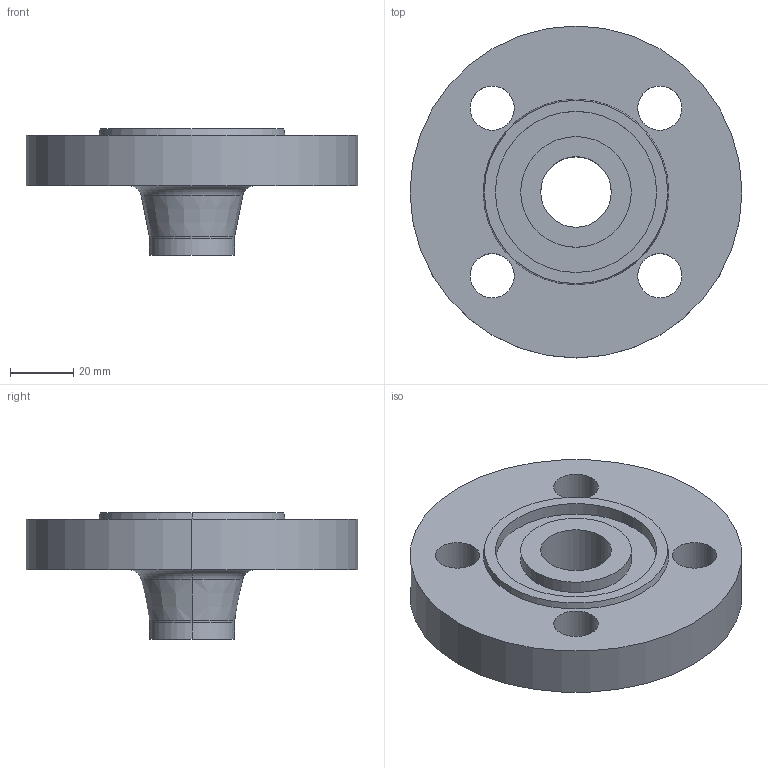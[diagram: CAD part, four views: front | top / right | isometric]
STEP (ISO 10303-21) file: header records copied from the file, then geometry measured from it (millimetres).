
FILE_DESCRIPTION (( 'STEP AP214' ), '1' );
FILE_NAME ('PN40 DN20 Type 11 - Type D Face.STEP', '2018-12-29T18:20:30', ( '' ), ( '' ), 'SwSTEP 2.0', 'SolidWorks 2019', '' );
FILE_SCHEMA (( 'AUTOMOTIVE_DESIGN' ));
Length unit declared in the file: millimetre
Products named in the file (1): PN40 DN20 Type 11 - Type D Face
Bounding box: 105 x 105 x 40 mm (x, y, z)
Volume: 129277.5 mm3; surface area: 29230.1 mm2
Topology: 1 solids, 1 shells, 32 faces, 72 edges, 46 vertices
Faces by surface type: cylinder 18, plane 6, torus 4, cone 4
Entity records: 972 total; most frequent: DIRECTION 188, CARTESIAN_POINT 151, ORIENTED_EDGE 144, AXIS2_PLACEMENT_3D 83, EDGE_CURVE 72, CIRCLE 50, EDGE_LOOP 46, VERTEX_POINT 46
